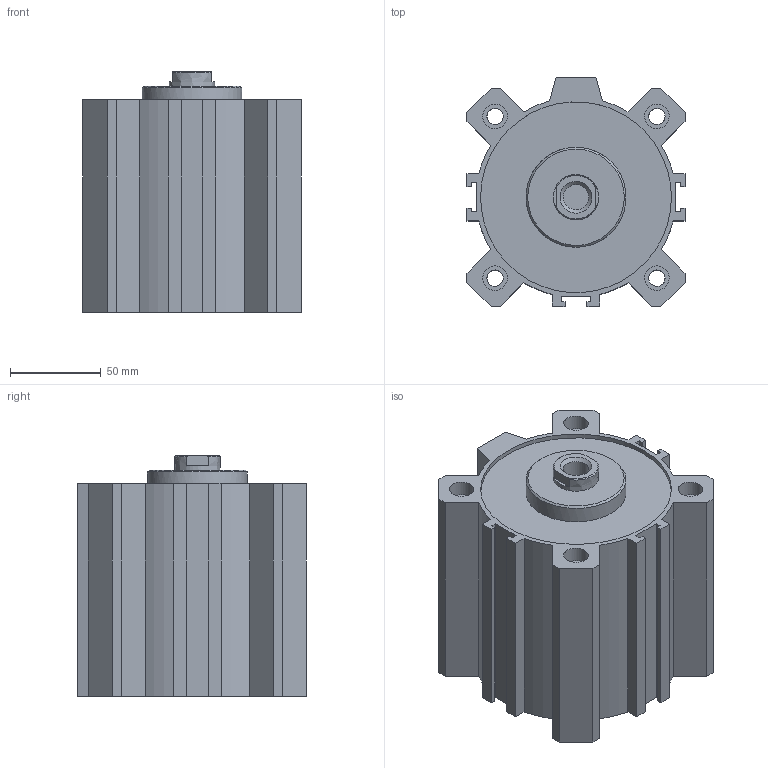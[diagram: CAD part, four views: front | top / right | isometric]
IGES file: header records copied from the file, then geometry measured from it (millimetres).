
Global section: file name: 1511_100_0065; native system: Autodesk Inventor 2014; preprocessor: unknown; author: A. Manieri; date: 20160824.162642; units: millimetre
Bounding box: 120 x 126 x 132.5 mm (x, y, z)
Volume: 885441 mm3; surface area: 186714 mm2
Topology: 2 solids, 2 shells, 119 faces, 307 edges, 210 vertices
Faces by surface type: bspline 119
